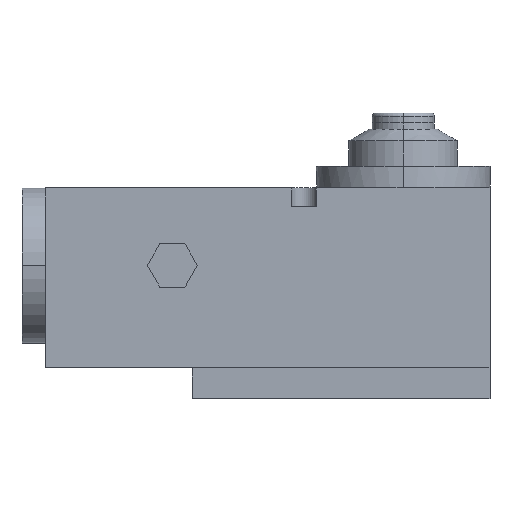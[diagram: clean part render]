
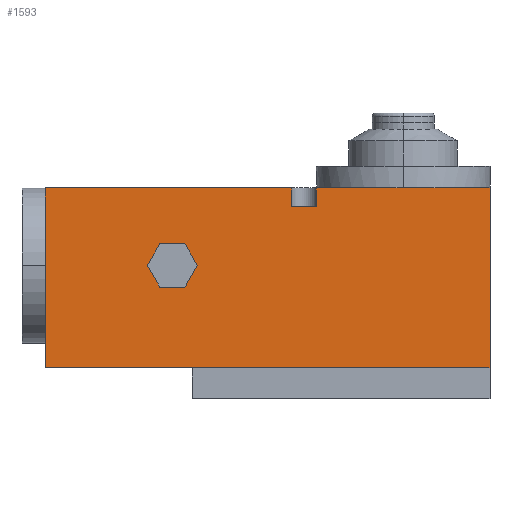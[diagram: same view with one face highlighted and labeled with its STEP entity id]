
A CAD part, top view. The second image highlights one B-rep face of the part: STEP entity #1593.
In plain terms, the highlighted planar face has unit normal (0, 0, 1).
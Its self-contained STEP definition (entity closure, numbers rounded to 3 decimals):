
#7 = VECTOR ( 'NONE', #590, 1000. ) ;
#69 = DIRECTION ( 'NONE',  ( 0., 0., -1. ) ) ;
#92 = CARTESIAN_POINT ( 'NONE',  ( -58.541, 50., 25. ) ) ;
#165 = CARTESIAN_POINT ( 'NONE',  ( -46.417, 43., 25. ) ) ;
#219 = ORIENTED_EDGE ( 'NONE', *, *, #1888, .T. ) ;
#224 = VECTOR ( 'NONE', #1263, 1000. ) ;
#226 = CARTESIAN_POINT ( 'NONE',  ( -95.5, 43., 25. ) ) ;
#237 = VECTOR ( 'NONE', #579, 1000. ) ;
#312 = CARTESIAN_POINT ( 'NONE',  ( -95.5, 10., 25. ) ) ;
#348 = CARTESIAN_POINT ( 'NONE',  ( -95.5, 68., 25. ) ) ;
#367 = CARTESIAN_POINT ( 'NONE',  ( -62.583, 43., 25. ) ) ;
#378 = CARTESIAN_POINT ( 'NONE',  ( -62.583, 43., 25. ) ) ;
#418 = LINE ( 'NONE', #618, #237 ) ;
#434 = EDGE_CURVE ( 'NONE', #1639, #3157, #994, .T. ) ;
#455 = LINE ( 'NONE', #348, #1879 ) ;
#459 = VERTEX_POINT ( 'NONE', #3711 ) ;
#507 = ORIENTED_EDGE ( 'NONE', *, *, #3295, .T. ) ;
#533 = DIRECTION ( 'NONE',  ( 1., 0., 0. ) ) ;
#557 = CARTESIAN_POINT ( 'NONE',  ( -46.417, 43., 25. ) ) ;
#579 = DIRECTION ( 'NONE',  ( 0.5, 0.866, 0. ) ) ;
#590 = DIRECTION ( 'NONE',  ( 0., -1., 0. ) ) ;
#618 = CARTESIAN_POINT ( 'NONE',  ( -50.459, 36., 25. ) ) ;
#631 = EDGE_CURVE ( 'NONE', #1603, #1495, #1655, .T. ) ;
#651 = CARTESIAN_POINT ( 'NONE',  ( 48., 68., 25. ) ) ;
#684 = DIRECTION ( 'NONE',  ( 0., 1., 0. ) ) ;
#685 = DIRECTION ( 'NONE',  ( -1., 0., 0. ) ) ;
#745 = EDGE_CURVE ( 'NONE', #3157, #1544, #2553, .T. ) ;
#779 = CARTESIAN_POINT ( 'NONE',  ( -58.541, 36., 25. ) ) ;
#806 = ORIENTED_EDGE ( 'NONE', *, *, #1697, .F. ) ;
#820 = EDGE_CURVE ( 'NONE', #3261, #2442, #2694, .T. ) ;
#864 = VERTEX_POINT ( 'NONE', #2420 ) ;
#897 = EDGE_CURVE ( 'NONE', #3838, #1603, #455, .T. ) ;
#924 = LINE ( 'NONE', #958, #2110 ) ;
#937 = DIRECTION ( 'NONE',  ( 1., 0., 0. ) ) ;
#950 = DIRECTION ( 'NONE',  ( 1., 0., 0. ) ) ;
#958 = CARTESIAN_POINT ( 'NONE',  ( -16., 62., 25. ) ) ;
#959 = VECTOR ( 'NONE', #937, 1000. ) ;
#976 = CARTESIAN_POINT ( 'NONE',  ( -50.459, 50., 25. ) ) ;
#994 = LINE ( 'NONE', #557, #3386 ) ;
#1085 = VERTEX_POINT ( 'NONE', #3184 ) ;
#1089 = VECTOR ( 'NONE', #3274, 1000. ) ;
#1096 = LINE ( 'NONE', #2003, #3250 ) ;
#1104 = VECTOR ( 'NONE', #950, 1000. ) ;
#1118 = ORIENTED_EDGE ( 'NONE', *, *, #3150, .T. ) ;
#1131 = VECTOR ( 'NONE', #2029, 1000. ) ;
#1151 = DIRECTION ( 'NONE',  ( 1., 0., 0. ) ) ;
#1165 = ORIENTED_EDGE ( 'NONE', *, *, #2378, .F. ) ;
#1183 = EDGE_LOOP ( 'NONE', ( #2580, #3224, #1366, #3591, #1165, #3853 ) ) ;
#1229 = CARTESIAN_POINT ( 'NONE',  ( -58.541, 36., 25. ) ) ;
#1256 = ORIENTED_EDGE ( 'NONE', *, *, #2581, .F. ) ;
#1263 = DIRECTION ( 'NONE',  ( 0.5, -0.866, 0. ) ) ;
#1282 = LINE ( 'NONE', #3860, #1382 ) ;
#1366 = ORIENTED_EDGE ( 'NONE', *, *, #2827, .F. ) ;
#1382 = VECTOR ( 'NONE', #2084, 1000. ) ;
#1495 = VERTEX_POINT ( 'NONE', #2074 ) ;
#1510 = VERTEX_POINT ( 'NONE', #651 ) ;
#1544 = VERTEX_POINT ( 'NONE', #92 ) ;
#1570 = LINE ( 'NONE', #3259, #7 ) ;
#1593 = ADVANCED_FACE ( 'NONE', ( #1668, #2461 ), #3660, .F. ) ;
#1603 = VERTEX_POINT ( 'NONE', #3103 ) ;
#1639 = VERTEX_POINT ( 'NONE', #165 ) ;
#1655 = LINE ( 'NONE', #2954, #1131 ) ;
#1668 = FACE_OUTER_BOUND ( 'NONE', #2037, .T. ) ;
#1694 = EDGE_CURVE ( 'NONE', #2315, #3838, #2969, .T. ) ;
#1697 = EDGE_CURVE ( 'NONE', #864, #459, #1096, .T. ) ;
#1761 = VERTEX_POINT ( 'NONE', #226 ) ;
#1813 = EDGE_CURVE ( 'NONE', #1085, #2315, #2362, .T. ) ;
#1818 = VERTEX_POINT ( 'NONE', #3788 ) ;
#1879 = VECTOR ( 'NONE', #3680, 1000. ) ;
#1888 = EDGE_CURVE ( 'NONE', #3622, #2886, #1282, .T. ) ;
#1927 = CARTESIAN_POINT ( 'NONE',  ( -58.541, 50., 25. ) ) ;
#1939 = LINE ( 'NONE', #2942, #3340 ) ;
#1941 = VECTOR ( 'NONE', #533, 1000. ) ;
#1999 = AXIS2_PLACEMENT_3D ( 'NONE', #3326, #69, #3630 ) ;
#2003 = CARTESIAN_POINT ( 'NONE',  ( -95.5, 68., 25. ) ) ;
#2029 = DIRECTION ( 'NONE',  ( 1., 0., 0. ) ) ;
#2037 = EDGE_LOOP ( 'NONE', ( #2062, #3069, #2850, #1118, #806, #2891, #507, #219, #1256, #3548, #2730 ) ) ;
#2062 = ORIENTED_EDGE ( 'NONE', *, *, #897, .F. ) ;
#2073 = CARTESIAN_POINT ( 'NONE',  ( -95.5, 68., 25. ) ) ;
#2074 = CARTESIAN_POINT ( 'NONE',  ( 32.61, 68., 25. ) ) ;
#2083 = CARTESIAN_POINT ( 'NONE',  ( -50.459, 50., 25. ) ) ;
#2084 = DIRECTION ( 'NONE',  ( 1., 0., 0. ) ) ;
#2106 = EDGE_CURVE ( 'NONE', #864, #1761, #1939, .T. ) ;
#2110 = VECTOR ( 'NONE', #684, 1000. ) ;
#2183 = CARTESIAN_POINT ( 'NONE',  ( -95.5, 68., 25. ) ) ;
#2315 = VERTEX_POINT ( 'NONE', #2767 ) ;
#2362 = LINE ( 'NONE', #3775, #1941 ) ;
#2378 = EDGE_CURVE ( 'NONE', #1544, #3261, #2608, .T. ) ;
#2420 = CARTESIAN_POINT ( 'NONE',  ( -95.5, 68., 25. ) ) ;
#2442 = VERTEX_POINT ( 'NONE', #779 ) ;
#2461 = FACE_BOUND ( 'NONE', #1183, .T. ) ;
#2470 = CARTESIAN_POINT ( 'NONE',  ( 48., 10., 25. ) ) ;
#2525 = LINE ( 'NONE', #1229, #1104 ) ;
#2553 = LINE ( 'NONE', #2083, #3746 ) ;
#2580 = ORIENTED_EDGE ( 'NONE', *, *, #434, .F. ) ;
#2581 = EDGE_CURVE ( 'NONE', #1510, #2886, #1570, .T. ) ;
#2591 = CARTESIAN_POINT ( 'NONE',  ( -8., 68., 25. ) ) ;
#2608 = LINE ( 'NONE', #1927, #1089 ) ;
#2622 = CARTESIAN_POINT ( 'NONE',  ( -8., 62., 25. ) ) ;
#2639 = DIRECTION ( 'NONE',  ( 0., -1., 0. ) ) ;
#2640 = EDGE_CURVE ( 'NONE', #1818, #1639, #418, .T. ) ;
#2694 = LINE ( 'NONE', #378, #224 ) ;
#2707 = VECTOR ( 'NONE', #2939, 1000. ) ;
#2719 = EDGE_CURVE ( 'NONE', #1495, #1510, #3073, .T. ) ;
#2730 = ORIENTED_EDGE ( 'NONE', *, *, #631, .F. ) ;
#2767 = CARTESIAN_POINT ( 'NONE',  ( -8., 62., 25. ) ) ;
#2827 = EDGE_CURVE ( 'NONE', #2442, #1818, #2525, .T. ) ;
#2850 = ORIENTED_EDGE ( 'NONE', *, *, #1813, .F. ) ;
#2886 = VERTEX_POINT ( 'NONE', #2470 ) ;
#2891 = ORIENTED_EDGE ( 'NONE', *, *, #2106, .T. ) ;
#2935 = DIRECTION ( 'NONE',  ( -0.5, 0.866, 0. ) ) ;
#2939 = DIRECTION ( 'NONE',  ( 0., 1., 0. ) ) ;
#2942 = CARTESIAN_POINT ( 'NONE',  ( -95.5, 68., 25. ) ) ;
#2954 = CARTESIAN_POINT ( 'NONE',  ( -95.5, 68., 25. ) ) ;
#2969 = LINE ( 'NONE', #2622, #2707 ) ;
#3069 = ORIENTED_EDGE ( 'NONE', *, *, #1694, .F. ) ;
#3073 = LINE ( 'NONE', #2073, #959 ) ;
#3103 = CARTESIAN_POINT ( 'NONE',  ( 7.39, 68., 25. ) ) ;
#3134 = LINE ( 'NONE', #2183, #3458 ) ;
#3150 = EDGE_CURVE ( 'NONE', #1085, #459, #924, .T. ) ;
#3157 = VERTEX_POINT ( 'NONE', #976 ) ;
#3184 = CARTESIAN_POINT ( 'NONE',  ( -16., 62., 25. ) ) ;
#3224 = ORIENTED_EDGE ( 'NONE', *, *, #2640, .F. ) ;
#3250 = VECTOR ( 'NONE', #1151, 1000. ) ;
#3259 = CARTESIAN_POINT ( 'NONE',  ( 48., 68., 25. ) ) ;
#3261 = VERTEX_POINT ( 'NONE', #367 ) ;
#3274 = DIRECTION ( 'NONE',  ( -0.5, -0.866, 0. ) ) ;
#3295 = EDGE_CURVE ( 'NONE', #1761, #3622, #3134, .T. ) ;
#3326 = CARTESIAN_POINT ( 'NONE',  ( -95.5, 68., 25. ) ) ;
#3340 = VECTOR ( 'NONE', #2639, 1000. ) ;
#3386 = VECTOR ( 'NONE', #2935, 1000. ) ;
#3458 = VECTOR ( 'NONE', #3667, 1000. ) ;
#3548 = ORIENTED_EDGE ( 'NONE', *, *, #2719, .F. ) ;
#3591 = ORIENTED_EDGE ( 'NONE', *, *, #820, .F. ) ;
#3622 = VERTEX_POINT ( 'NONE', #312 ) ;
#3630 = DIRECTION ( 'NONE',  ( -1., 0., 0. ) ) ;
#3660 = PLANE ( 'NONE',  #1999 ) ;
#3667 = DIRECTION ( 'NONE',  ( 0., -1., 0. ) ) ;
#3680 = DIRECTION ( 'NONE',  ( 1., 0., 0. ) ) ;
#3711 = CARTESIAN_POINT ( 'NONE',  ( -16., 68., 25. ) ) ;
#3746 = VECTOR ( 'NONE', #685, 1000. ) ;
#3775 = CARTESIAN_POINT ( 'NONE',  ( -16., 62., 25. ) ) ;
#3788 = CARTESIAN_POINT ( 'NONE',  ( -50.459, 36., 25. ) ) ;
#3838 = VERTEX_POINT ( 'NONE', #2591 ) ;
#3853 = ORIENTED_EDGE ( 'NONE', *, *, #745, .F. ) ;
#3860 = CARTESIAN_POINT ( 'NONE',  ( -95.5, 10., 25. ) ) ;
